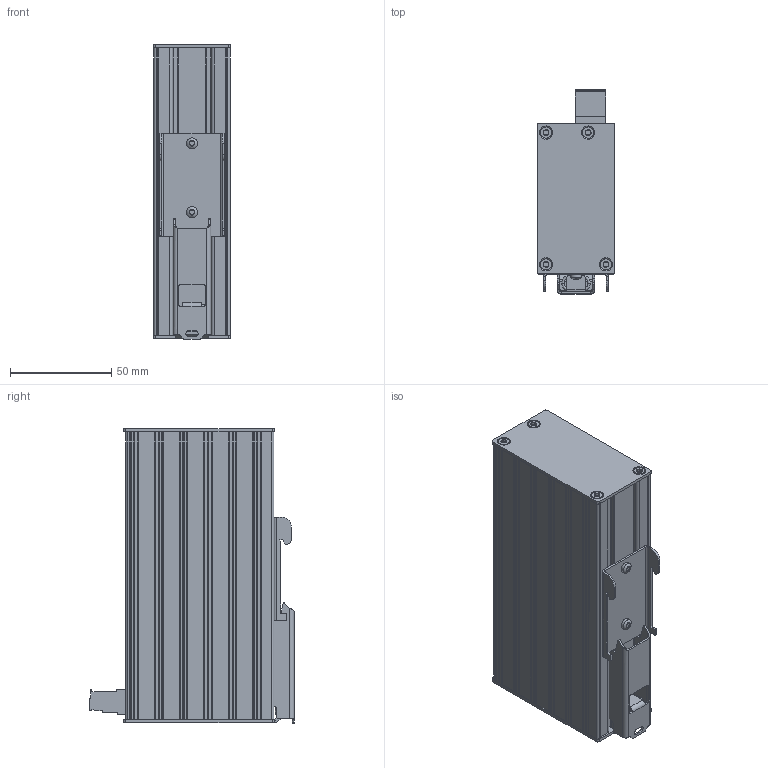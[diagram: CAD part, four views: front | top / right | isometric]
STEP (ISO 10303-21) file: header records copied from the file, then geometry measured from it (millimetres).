
FILE_DESCRIPTION(('TFLEX Exchange Step'),'2;1');
FILE_NAME('TZCA21180XA_NITE-RS16.stp', '2019-08-01T15:01:08+02:00',('User'),('Unknown organisation'),'TFLEX Exchange 2019.0','T-FLEX CAD','Unknown authorisation');
FILE_SCHEMA( ('AUTOMOTIVE_DESIGN { 1 0 10303 214 1 1 1 1 }') );
Length unit declared in the file: millimetre
Products named in the file (1): TZCA21180XA_NITE-RS16
Bounding box: 38 x 100.65 x 145.05 mm (x, y, z)
Volume: 375732.6 mm3; surface area: 65138.2 mm2
Topology: 2 solids, 29 shells, 3155 faces, 8824 edges, 5825 vertices
Faces by surface type: plane 1907, cylinder 740, bspline 330, cone 149, torus 22, extrusion 5, sphere 2
Full cylindrical faces by diameter (mm): 0.5 x128, 1.2 x11, 1.3 x3, 2.85 x12, 3 x5, 3.15 x2, 3.5 x2, 3.75 x3, 3.95 x3, 5.5 x14, 6 x4
Entity records: 109072 total; most frequent: CARTESIAN_POINT 27343, ORIENTED_EDGE 17392, DIRECTION 15534, EDGE_CURVE 8696, VECTOR 6032, LINE 6027, VERTEX_POINT 5825, AXIS2_PLACEMENT_3D 4751
